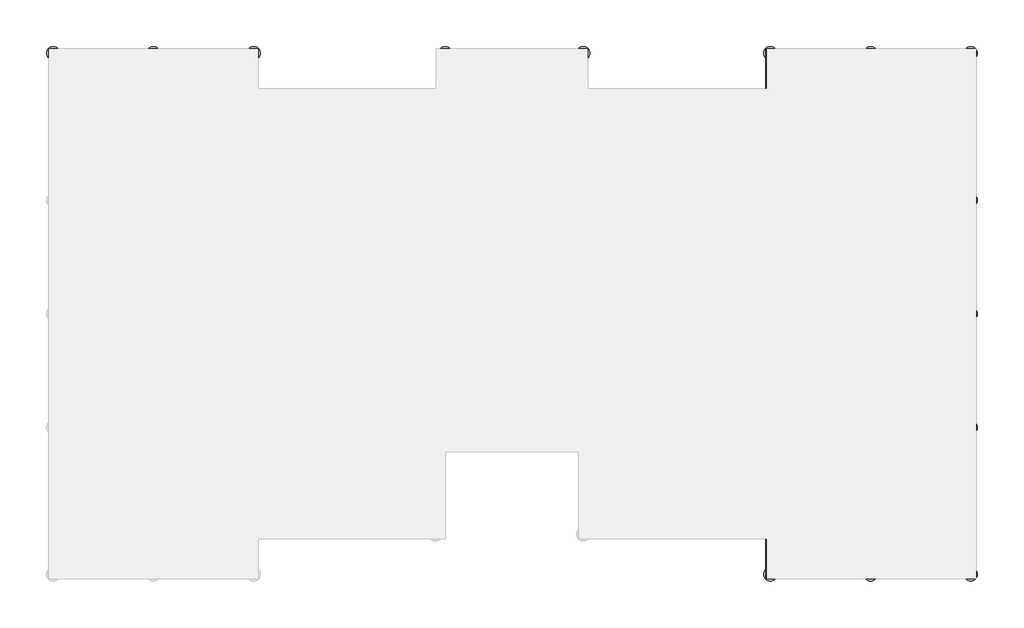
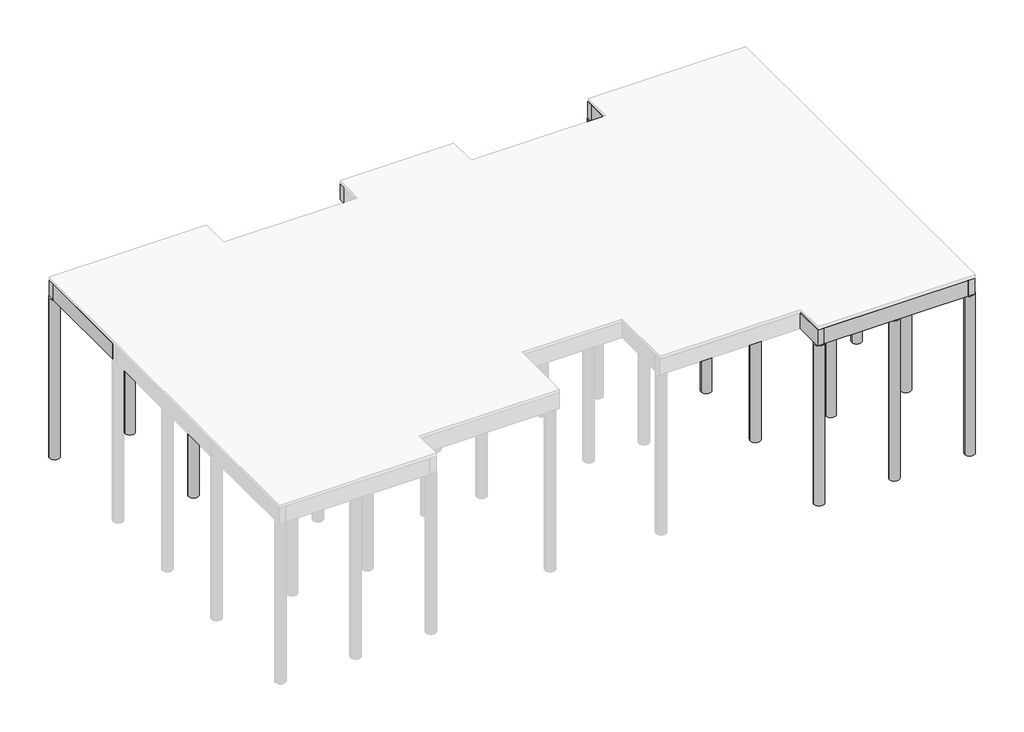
# One storey, part 2 of 2: 23 columns, 21 beams.
"""IFC4 building model written with IfcOpenShell, lengths in millimetres."""

from ifc_helpers import new_model, si_unit, point, frame, frame_2d, origin, place, context, project, spatial, polyline, circle_curve, trimmed, segment, composite_curve, outline, extrude, faceted_brep, element, save

model = new_model("IFC4")

# Units and contexts
model_context = context("Model", 3, world=origin())
ifc_project = project(units=[si_unit("LENGTHUNIT", "METRE", prefix="MILLI")], contexts=[model_context])

# Site, building, storey
site = spatial("IfcSite", under=ifc_project)
building = spatial("IfcBuilding", under=site)
storey = spatial("IfcBuildingStorey", under=building, Name="Baldrame", Elevation=-100.0)

# Beams
placement = place(None, origin())
element("IfcBeam", 1, ObjectType="Viga retangular : 20 x 30", at=placement, inside=storey, context=model_context, shape_type="SweptSolid", body=[
    extrude(outline(polyline([(4500.0002754, 10100.0088444), (4500.0002754, 9900.0088444), (3349.9979087, 9900.0088444), (3349.9979087, 10100.0088444), (4500.0002754, 10100.0088444)])), frame((0.0, 0.0, -400.0), z_axis=(0.0, 0.0, 1.0), x_axis=(1.0, 0.0, 0.0)), (0.0, 0.0, 1.0), 300.0),
])
element("IfcBeam", 2, ObjectType="Viga retangular : 20 x 30", at=placement, inside=storey, context=model_context, shape_type="SweptSolid", body=[
    extrude(outline(polyline([(16299.9991493, 2699.9968464), (16299.9991493, 2899.9968464), (17449.9950981, 2899.9968464), (17449.9950981, 2699.9968464), (16299.9991493, 2699.9968464)])), frame((0.0, 0.0, -400.0), z_axis=(0.0, 0.0, 1.0), x_axis=(1.0, 0.0, 0.0)), (0.0, 0.0, 1.0), 300.0),
])
element("IfcBeam", 3, ObjectType="Viga retangular : 20 x 30", at=placement, inside=storey, context=model_context, shape_type="SweptSolid", body=[
    extrude(outline(polyline([(16299.9991493, 9900.0088444), (16299.9991493, 10100.0088444), (17449.9960845, 10100.0088444), (17449.9960845, 9900.0088444), (16299.9991493, 9900.0088444)])), frame((0.0, 0.0, -400.0), z_axis=(0.0, 0.0, 1.0), x_axis=(1.0, 0.0, 0.0)), (0.0, 0.0, 1.0), 300.0),
])
element("IfcBeam", 4, ObjectType="Viga retangular : 20 x 50", at=placement, inside=storey, context=model_context, shape_type="Brep", body=[
    faceted_brep([(1.84e-05, 12350.0105618, -100.0), (1.84e-05, 12150.0105618, -100.0), (200.0000184, 12150.0105618, -100.0), (3149.9979087, 12150.0105618, -100.0), (3349.9979087, 12150.0105618, -100.0), (4500.0002754, 12150.0105618, -100.0), (4700.0002754, 12150.0105618, -100.0), (4700.0002754, 12350.0105618, -100.0), (1.84e-05, 12150.0105618, -600.0), (200.0000184, 12150.0105618, -600.0), (3149.9979087, 12150.0105618, -600.0), (3349.9979087, 12150.0105618, -600.0), (4500.0002754, 12150.0105618, -600.0), (4700.0002754, 12150.0105618, -600.0), (1.84e-05, 12350.0105618, -600.0), (4700.0002754, 12350.0105618, -600.0)], [[[0, 1, 2, 3, 4, 5, 6, 7]], [[1, 8, 9, 10, 11, 12, 13, 6, 5, 4, 3, 2]], [[8, 14, 15, 13, 12, 11, 10, 9]], [[14, 0, 7, 15]], [[1, 0, 14, 8]], [[7, 6, 13, 15]]]),
])
element("IfcBeam", 5, ObjectType="Viga retangular : 20 x 50", at=placement, inside=storey, context=model_context, shape_type="Brep", body=[
    faceted_brep([(12099.9983388, 12149.9988127, -100.0), (12099.9983388, 12349.9988127, -100.0), (8699.999281, 12349.9988127, -100.0), (8699.999281, 12149.9988127, -100.0), (8899.999281, 12149.9988127, -100.0), (11899.9983388, 12149.9988127, -100.0), (12099.9983388, 12149.9988127, -600.0), (8699.999281, 12149.9988127, -600.0), (8899.999281, 12149.9988127, -600.0), (11899.9983388, 12149.9988127, -600.0), (12099.9983388, 12349.9988127, -600.0), (8699.999281, 12349.9988127, -600.0)], [[[0, 1, 2, 3, 4, 5]], [[6, 0, 5, 4, 3, 7, 8, 9]], [[10, 6, 9, 8, 7, 11]], [[1, 10, 11, 2]], [[1, 0, 6, 10]], [[3, 2, 11, 7]]]),
])
element("IfcBeam", 6, ObjectType="Viga retangular : 20 x 50", at=placement, inside=storey, context=model_context, shape_type="Brep", body=[
    faceted_brep([(20799.994403, 12150.0074102, -100.0), (20799.994403, 12350.0074102, -100.0), (16099.9991493, 12350.0074102, -100.0), (16099.9991493, 12150.0074102, -100.0), (16299.9991493, 12150.0074102, -100.0), (17449.9960845, 12150.0074102, -100.0), (17649.9960845, 12150.0074102, -100.0), (20599.994403, 12150.0074102, -100.0), (20799.994403, 12150.0074102, -600.0), (16099.9991493, 12150.0074102, -600.0), (16299.9991493, 12150.0074102, -600.0), (17449.9960845, 12150.0074102, -600.0), (17649.9960845, 12150.0074102, -600.0), (20599.994403, 12150.0074102, -600.0), (20799.994403, 12350.0074102, -600.0), (16099.9991493, 12350.0074102, -600.0)], [[[0, 1, 2, 3, 4, 5, 6, 7]], [[8, 0, 7, 6, 5, 4, 3, 9, 10, 11, 12, 13]], [[14, 8, 13, 12, 11, 10, 9, 15]], [[1, 14, 15, 2]], [[1, 0, 8, 14]], [[3, 2, 15, 9]]]),
])
element("IfcBeam", 7, ObjectType="Viga retangular : 20 x 50", at=placement, inside=storey, context=model_context, shape_type="SweptSolid", body=[
    extrude(outline(polyline([(1.84e-05, 12150.0105618), (200.0000184, 12150.0105618), (200.0000184, 9050.0104593), (1.84e-05, 9050.0104593), (1.84e-05, 12150.0105618)])), frame((0.0, 0.0, -600.0), z_axis=(0.0, 0.0, 1.0), x_axis=(1.0, 0.0, 0.0)), (0.0, 0.0, 1.0), 500.0),
])
element("IfcBeam", 8, ObjectType="Viga retangular : 20 x 50", at=placement, inside=storey, context=model_context, shape_type="Brep", body=[
    faceted_brep([(3349.9979087, 12150.0105618, -100.0), (3149.9979087, 12150.0105618, -100.0), (3149.9979087, 9050.0104593, -100.0), (3349.9979087, 9050.0104593, -100.0), (3349.9979087, 9900.0088444, -100.0), (3349.9979087, 10100.0088444, -100.0), (3349.9979087, 12150.0105618, -600.0), (3349.9979087, 9050.0104593, -600.0), (3149.9979087, 12150.0105618, -600.0), (3149.9979087, 9050.0104593, -600.0)], [[[0, 1, 2, 3, 4, 5]], [[6, 0, 5, 4, 3, 7]], [[8, 6, 7, 9]], [[1, 8, 9, 2]], [[1, 0, 6, 8]], [[3, 2, 9, 7]]]),
])
element("IfcBeam", 9, ObjectType="Viga retangular : 20 x 50", at=placement, inside=storey, context=model_context, shape_type="Brep", body=[
    faceted_brep([(11899.9983388, 10900.0024617, -100.0), (11899.9983388, 10900.0024617, -600.0), (12099.9983388, 10900.0024617, -600.0), (12099.9983388, 10900.0024617, -100.0), (12099.9983388, 11200.0071923, -100.0), (12099.9983388, 11450.007048, -100.0), (12099.9983388, 12149.9988127, -100.0), (11899.9983388, 12149.9988127, -100.0), (12099.9983388, 11200.0071923, -600.0), (12099.9983388, 11450.0071923, -600.0), (12099.9983388, 12149.9988127, -600.0), (11899.9983388, 12149.9988127, -600.0)], [[[0, 1, 2, 3]], [[0, 3, 4, 5, 6, 7]], [[3, 2, 8, 9, 10, 6, 5, 4]], [[2, 1, 11, 10, 9, 8]], [[1, 0, 7, 11]], [[7, 6, 10, 11]]]),
])
element("IfcBeam", 10, ObjectType="Viga retangular : 20 x 50", at=placement, inside=storey, context=model_context, shape_type="Brep", body=[
    faceted_brep([(16099.9991493, 449.9907876, -100.0), (16299.9991493, 449.9907876, -100.0), (16299.9991493, 649.9907876, -100.0), (16299.9991493, 2699.9968464, -100.0), (16299.9991493, 2899.9968464, -100.0), (16299.9991493, 3749.9921964, -100.0), (16299.9991493, 3949.9921964, -100.0), (16299.9991493, 6300.0028454, -100.0), (16299.9991493, 6500.0028454, -100.0), (16299.9991493, 8850.0060014, -100.0), (16299.9991493, 9050.0060014, -100.0), (16299.9991493, 9900.0088444, -100.0), (16299.9991493, 10100.0088444, -100.0), (16299.9991493, 12150.0074102, -100.0), (16099.9991493, 12150.0074102, -100.0), (16099.9991493, 11450.0071923, -100.0), (16099.9991493, 11200.0071923, -100.0), (16099.9991493, 6500.0028454, -100.0), (16099.9991493, 6300.0028454, -100.0), (16099.9991493, 1599.9990079, -100.0), (16099.9991493, 1349.9990079, -100.0), (16299.9991493, 449.9907876, -600.0), (16299.9991493, 649.9907876, -600.0), (16299.9991493, 3749.9921964, -600.0), (16299.9991493, 3949.9921964, -600.0), (16299.9991493, 6300.0028454, -600.0), (16299.9991493, 6500.0028454, -600.0), (16299.9991493, 8850.0060014, -600.0), (16299.9991493, 9050.0060014, -600.0), (16299.9991493, 12150.0074102, -600.0), (16099.9991493, 449.9907876, -600.0), (16099.9991493, 1349.9990079, -600.0), (16099.9991493, 1599.9990079, -600.0), (16099.9991493, 6300.0028454, -600.0), (16099.9991493, 6500.0028454, -600.0), (16099.9991493, 11200.0071923, -600.0), (16099.9991493, 11450.0071923, -600.0), (16099.9991493, 12150.0074102, -600.0)], [[[0, 1, 2, 3, 4, 5, 6, 7, 8, 9, 10, 11, 12, 13, 14, 15, 16, 17, 18, 19, 20]], [[1, 21, 22, 23, 24, 25, 26, 27, 28, 29, 13, 12, 11, 10, 9, 8, 7, 6, 5, 4, 3, 2]], [[21, 30, 31, 32, 33, 34, 35, 36, 37, 29, 28, 27, 26, 25, 24, 23, 22]], [[30, 0, 20, 19, 18, 17, 16, 15, 14, 37, 36, 35, 34, 33, 32, 31]], [[14, 13, 29, 37]], [[1, 0, 30, 21]]]),
])
element("IfcBeam", 11, ObjectType="Viga retangular : 20 x 50", at=placement, inside=storey, context=model_context, shape_type="Brep", body=[
    faceted_brep([(20599.994403, 449.9907876, -100.0), (20799.994403, 449.9907876, -100.0), (20799.994403, 3949.9921964, -100.0), (20599.994403, 3949.9921964, -100.0), (20599.994403, 3749.9921964, -100.0), (20599.994403, 649.9907876, -100.0), (20799.994403, 449.9907876, -600.0), (20799.994403, 3949.9921964, -600.0), (20599.994403, 449.9907876, -600.0), (20599.994403, 649.9907876, -600.0), (20599.994403, 3749.9921964, -600.0), (20599.994403, 3949.9921964, -600.0)], [[[0, 1, 2, 3, 4, 5]], [[1, 6, 7, 2]], [[6, 8, 9, 10, 11, 7]], [[8, 0, 5, 4, 3, 11, 10, 9]], [[1, 0, 8, 6]], [[3, 2, 7, 11]]]),
])
element("IfcBeam", 12, ObjectType="Viga retangular : 20 x 50", at=placement, inside=storey, context=model_context, shape_type="Brep", body=[
    faceted_brep([(20599.994403, 3949.9921964, -100.0), (20799.994403, 3949.9921964, -100.0), (20799.994403, 8850.0060014, -100.0), (20599.994403, 8850.0060014, -100.0), (20599.994403, 6500.0028454, -100.0), (20599.994403, 6300.0028454, -100.0), (20799.994403, 3949.9921964, -600.0), (20799.994403, 8850.0060014, -600.0), (20599.994403, 3949.9921964, -600.0), (20599.994403, 6300.0028454, -600.0), (20599.994403, 6500.0028454, -600.0), (20599.994403, 8850.0060014, -600.0)], [[[0, 1, 2, 3, 4, 5]], [[1, 6, 7, 2]], [[6, 8, 9, 10, 11, 7]], [[8, 0, 5, 4, 3, 11, 10, 9]], [[1, 0, 8, 6]], [[3, 2, 7, 11]]]),
])
element("IfcBeam", 13, ObjectType="Viga retangular : 20 x 50", at=placement, inside=storey, context=model_context, shape_type="Brep", body=[
    faceted_brep([(20799.994403, 8850.0060014, -100.0), (20799.994403, 9050.0060014, -100.0), (20599.994403, 9050.0060014, -100.0), (17649.9960845, 9050.0060014, -100.0), (17449.9960845, 9050.0060014, -100.0), (16299.9991493, 9050.0060014, -100.0), (16299.9991493, 8850.0060014, -100.0), (20599.994403, 8850.0060014, -100.0), (20799.994403, 8850.0060014, -600.0), (16299.9991493, 8850.0060014, -600.0), (20599.994403, 8850.0060014, -600.0), (20799.994403, 9050.0060014, -600.0), (16299.9991493, 9050.0060014, -600.0), (17449.9960845, 9050.0060014, -600.0), (17649.9960845, 9050.0060014, -600.0), (20599.994403, 9050.0060014, -600.0)], [[[0, 1, 2, 3, 4, 5, 6, 7]], [[8, 0, 7, 6, 9, 10]], [[11, 8, 10, 9, 12, 13, 14, 15]], [[1, 11, 15, 14, 13, 12, 5, 4, 3, 2]], [[6, 5, 12, 9]], [[1, 0, 8, 11]]]),
])
element("IfcBeam", 14, ObjectType="Viga retangular : 20 x 50", at=placement, inside=storey, context=model_context, shape_type="Brep", body=[
    faceted_brep([(16299.9991493, 3949.9921964, -100.0), (16299.9991493, 3749.9921964, -100.0), (17449.9950981, 3749.9921964, -100.0), (17649.9950981, 3749.9921964, -100.0), (20599.994403, 3749.9921964, -100.0), (20599.994403, 3949.9921964, -100.0), (16299.9991493, 3749.9921964, -600.0), (17449.9950981, 3749.9921964, -600.0), (17649.9950981, 3749.9921964, -600.0), (20599.994403, 3749.9921964, -600.0), (16299.9991493, 3949.9921964, -600.0), (20599.994403, 3949.9921964, -600.0)], [[[0, 1, 2, 3, 4, 5]], [[1, 6, 7, 8, 9, 4, 3, 2]], [[6, 10, 11, 9, 8, 7]], [[10, 0, 5, 11]], [[1, 0, 10, 6]], [[5, 4, 9, 11]]]),
])
element("IfcBeam", 15, ObjectType="Viga retangular : 20 x 50", at=placement, inside=storey, context=model_context, shape_type="Brep", body=[
    faceted_brep([(17649.9950981, 3749.9921964, -100.0), (17449.9950981, 3749.9921964, -100.0), (17449.9950981, 2899.9968464, -100.0), (17449.9950981, 2699.9968464, -100.0), (17449.9950981, 649.9907876, -100.0), (17649.9950981, 649.9907876, -100.0), (17649.9950981, 3749.9921964, -600.0), (17649.9950981, 649.9907876, -600.0), (17449.9950981, 3749.9921964, -600.0), (17449.9950981, 649.9907876, -600.0)], [[[0, 1, 2, 3, 4, 5]], [[6, 0, 5, 7]], [[8, 6, 7, 9]], [[1, 8, 9, 4, 3, 2]], [[1, 0, 6, 8]], [[5, 4, 9, 7]]]),
])
element("IfcBeam", 16, ObjectType="Viga retangular : 20 x 50", at=placement, inside=storey, context=model_context, shape_type="Brep", body=[
    faceted_brep([(16299.9991493, 649.9907876, -100.0), (16299.9991493, 449.9907876, -100.0), (20599.994403, 449.9907876, -100.0), (20599.994403, 649.9907876, -100.0), (17649.9950981, 649.9907876, -100.0), (17449.9950981, 649.9907876, -100.0), (16299.9991493, 449.9907876, -600.0), (20599.994403, 449.9907876, -600.0), (16299.9991493, 649.9907876, -600.0), (17449.9950981, 649.9907876, -600.0), (17649.9950981, 649.9907876, -600.0), (20599.994403, 649.9907876, -600.0)], [[[0, 1, 2, 3, 4, 5]], [[1, 6, 7, 2]], [[6, 8, 9, 10, 11, 7]], [[8, 0, 5, 4, 3, 11, 10, 9]], [[1, 0, 8, 6]], [[3, 2, 7, 11]]]),
])
element("IfcBeam", 17, ObjectType="Viga retangular : 20 x 50", at=placement, inside=storey, context=model_context, shape_type="SweptSolid", body=[
    extrude(outline(polyline([(16299.9991493, 6300.0028454), (16299.9991493, 6500.0028454), (20599.994403, 6500.0028454), (20599.994403, 6300.0028454), (16299.9991493, 6300.0028454)])), frame((0.0, 0.0, -600.0), z_axis=(0.0, 0.0, 1.0), x_axis=(1.0, 0.0, 0.0)), (0.0, 0.0, 1.0), 500.0),
    extrude(outline(polyline([(16099.9991493, 6500.0028454), (16099.9991493, 6300.0028454), (13749.9952153, 6300.0028454), (13749.9952153, 6500.0028454), (16099.9991493, 6500.0028454)])), frame((0.0, 0.0, -600.0), z_axis=(0.0, 0.0, 1.0), x_axis=(1.0, 0.0, 0.0)), (0.0, 0.0, 1.0), 500.0),
])
element("IfcBeam", 18, ObjectType="Viga retangular : 20 x 50", at=placement, inside=storey, context=model_context, shape_type="SweptSolid", body=[
    extrude(outline(polyline([(20599.994403, 12150.0074102), (20799.994403, 12150.0074102), (20799.994403, 9050.0060014), (20599.994403, 9050.0060014), (20599.994403, 12150.0074102)])), frame((0.0, 0.0, -600.0), z_axis=(0.0, 0.0, 1.0), x_axis=(1.0, 0.0, 0.0)), (0.0, 0.0, 1.0), 500.0),
])
element("IfcBeam", 19, ObjectType="Viga retangular : 20 x 50", at=placement, inside=storey, context=model_context, shape_type="Brep", body=[
    faceted_brep([(17649.9960845, 12150.0074102, -100.0), (17449.9960845, 12150.0074102, -100.0), (17449.9960845, 10100.0088444, -100.0), (17449.9960845, 9900.0088444, -100.0), (17449.9960845, 9050.0060014, -100.0), (17649.9960845, 9050.0060014, -100.0), (17649.9960845, 12150.0074102, -600.0), (17649.9960845, 9050.0060014, -600.0), (17449.9960845, 12150.0074102, -600.0), (17449.9960845, 9050.0060014, -600.0)], [[[0, 1, 2, 3, 4, 5]], [[6, 0, 5, 7]], [[8, 6, 7, 9]], [[1, 8, 9, 4, 3, 2]], [[1, 0, 6, 8]], [[5, 4, 9, 7]]]),
])
element("IfcBeam", 20, ObjectType="Viga retangular : 25 x 50", at=placement, inside=storey, context=model_context, shape_type="Brep", body=[
    faceted_brep([(4700.0002754, 11450.007048, -100.0), (4700.0002754, 11200.007048, -100.0), (7049.9960549, 11200.007048, -100.0), (7249.9960549, 11200.007048, -100.0), (8699.999281, 11200.007048, -100.0), (8699.999281, 11450.007048, -100.0), (4700.0002754, 11200.007048, -600.0), (7049.9960549, 11200.007048, -600.0), (7249.9960549, 11200.007048, -600.0), (8699.999281, 11200.007048, -600.0), (4700.0002754, 11450.007048, -600.0), (8699.999281, 11450.007048, -600.0)], [[[0, 1, 2, 3, 4, 5]], [[1, 6, 7, 8, 9, 4, 3, 2]], [[6, 10, 11, 9, 8, 7]], [[10, 0, 5, 11]], [[1, 0, 10, 6]], [[5, 4, 9, 11]]]),
])
element("IfcBeam", 21, ObjectType="Viga retangular : 25 x 50", at=placement, inside=storey, context=model_context, shape_type="Brep", body=[
    faceted_brep([(16099.9991493, 11200.0071923, -100.0), (16099.9991493, 11450.0071923, -100.0), (12099.9983388, 11450.0071923, -100.0), (12099.9983388, 11200.0071923, -100.0), (13549.9952153, 11200.0071923, -100.0), (13749.9952153, 11200.0071923, -100.0), (16099.9991493, 11200.0071923, -600.0), (12099.9983388, 11200.0071923, -600.0), (13549.9952153, 11200.0071923, -600.0), (13749.9952153, 11200.0071923, -600.0), (16099.9991493, 11450.0071923, -600.0), (12099.9983388, 11450.0071923, -600.0)], [[[0, 1, 2, 3, 4, 5]], [[6, 0, 5, 4, 3, 7, 8, 9]], [[10, 6, 9, 8, 7, 11]], [[1, 10, 11, 2]], [[1, 0, 6, 10]], [[3, 2, 11, 7]]]),
])

# Columns
element("IfcColumn", 22, ObjectType="Estaca de Concreto : Estaca de Concreto  Ø30", at=placement, inside=storey, context=model_context, shape_type="SweptSolid", body=[
    extrude(outline(composite_curve([segment(trimmed(circle_curve(frame_2d((100.0000184, 12250.0105618)), 150.0), [point((-49.9999816, 12250.0105618))], [point((250.0000184, 12250.0105618))], False, "CARTESIAN"), True, "CONTINUOUS"), segment(trimmed(circle_curve(frame_2d((100.0000184, 12250.0105618)), 150.0), [point((250.0000184, 12250.0105618))], [point((-49.9999816, 12250.0105618))], False, "CARTESIAN"), True, "CONTINUOUS")], self_intersect=False)), frame((0.0, 0.0, -5650.0), z_axis=(0.0, 0.0, 1.0), x_axis=(1.0, 0.0, 0.0)), (0.0, 0.0, 1.0), 5050.0),
])
element("IfcColumn", 23, ObjectType="Estaca de Concreto : Estaca de Concreto  Ø30", at=placement, inside=storey, context=model_context, shape_type="SweptSolid", body=[
    extrude(outline(composite_curve([segment(trimmed(circle_curve(frame_2d((4600.0002754, 12250.0074102)), 150.0), [point((4450.0002754, 12250.0074102))], [point((4750.0002754, 12250.0074102))], False, "CARTESIAN"), True, "CONTINUOUS"), segment(trimmed(circle_curve(frame_2d((4600.0002754, 12250.0074102)), 150.0), [point((4750.0002754, 12250.0074102))], [point((4450.0002754, 12250.0074102))], False, "CARTESIAN"), True, "CONTINUOUS")], self_intersect=False)), frame((0.0, 0.0, -5650.0), z_axis=(0.0, 0.0, 1.0), x_axis=(1.0, 0.0, 0.0)), (0.0, 0.0, 1.0), 5050.0),
])
element("IfcColumn", 24, ObjectType="Estaca de Concreto : Estaca de Concreto  Ø30", at=placement, inside=storey, context=model_context, shape_type="SweptSolid", body=[
    extrude(outline(composite_curve([segment(trimmed(circle_curve(frame_2d((4600.0002754, 8950.0060014)), 150.0), [point((4450.0002754, 8950.0060014))], [point((4750.0002754, 8950.0060014))], False, "CARTESIAN"), True, "CONTINUOUS"), segment(trimmed(circle_curve(frame_2d((4600.0002754, 8950.0060014)), 150.0), [point((4750.0002754, 8950.0060014))], [point((4450.0002754, 8950.0060014))], False, "CARTESIAN"), True, "CONTINUOUS")], self_intersect=False)), frame((0.0, 0.0, -5650.0), z_axis=(0.0, 0.0, 1.0), x_axis=(1.0, 0.0, 0.0)), (0.0, 0.0, 1.0), 5050.0),
])
element("IfcColumn", 25, ObjectType="Estaca de Concreto : Estaca de Concreto  Ø30", at=placement, inside=storey, context=model_context, shape_type="SweptSolid", body=[
    extrude(outline(composite_curve([segment(trimmed(circle_curve(frame_2d((8899.9993456, 12249.9988127)), 150.0), [point((8749.9993456, 12249.9988127))], [point((9049.9993456, 12249.9988127))], False, "CARTESIAN"), True, "CONTINUOUS"), segment(trimmed(circle_curve(frame_2d((8899.9993456, 12249.9988127)), 150.0), [point((9049.9993456, 12249.9988127))], [point((8749.9993456, 12249.9988127))], False, "CARTESIAN"), True, "CONTINUOUS")], self_intersect=False)), frame((0.0, 0.0, -5650.0), z_axis=(0.0, 0.0, 1.0), x_axis=(1.0, 0.0, 0.0)), (0.0, 0.0, 1.0), 5050.0),
])
element("IfcColumn", 26, ObjectType="Estaca de Concreto : Estaca de Concreto  Ø30", at=placement, inside=storey, context=model_context, shape_type="SweptSolid", body=[
    extrude(outline(composite_curve([segment(trimmed(circle_curve(frame_2d((8799.9990513, 11350.007048)), 150.0), [point((8649.9990513, 11350.007048))], [point((8949.9990513, 11350.007048))], False, "CARTESIAN"), True, "CONTINUOUS"), segment(trimmed(circle_curve(frame_2d((8799.9990513, 11350.007048)), 150.0), [point((8949.9990513, 11350.007048))], [point((8649.9990513, 11350.007048))], False, "CARTESIAN"), True, "CONTINUOUS")], self_intersect=False)), frame((0.0, 0.0, -5650.0), z_axis=(0.0, 0.0, 1.0), x_axis=(1.0, 0.0, 0.0)), (0.0, 0.0, 1.0), 5050.0),
])
element("IfcColumn", 27, ObjectType="Estaca de Concreto : Estaca de Concreto  Ø30", at=placement, inside=storey, context=model_context, shape_type="SweptSolid", body=[
    extrude(outline(composite_curve([segment(trimmed(circle_curve(frame_2d((2350.0001469, 12250.0105618)), 150.0), [point((2200.0001469, 12250.0105618))], [point((2500.0001469, 12250.0105618))], False, "CARTESIAN"), True, "CONTINUOUS"), segment(trimmed(circle_curve(frame_2d((2350.0001469, 12250.0105618)), 150.0), [point((2500.0001469, 12250.0105618))], [point((2200.0001469, 12250.0105618))], False, "CARTESIAN"), True, "CONTINUOUS")], self_intersect=False)), frame((0.0, 0.0, -5650.0), z_axis=(0.0, 0.0, 1.0), x_axis=(1.0, 0.0, 0.0)), (0.0, 0.0, 1.0), 5050.0),
])
element("IfcColumn", 28, ObjectType="Estaca de Concreto : Estaca de Concreto  Ø30", at=placement, inside=storey, context=model_context, shape_type="SweptSolid", body=[
    extrude(outline(composite_curve([segment(trimmed(circle_curve(frame_2d((2350.0001469, 8950.0104593)), 150.0), [point((2200.0001469, 8950.0104593))], [point((2500.0001469, 8950.0104593))], False, "CARTESIAN"), True, "CONTINUOUS"), segment(trimmed(circle_curve(frame_2d((2350.0001469, 8950.0104593)), 150.0), [point((2500.0001469, 8950.0104593))], [point((2200.0001469, 8950.0104593))], False, "CARTESIAN"), True, "CONTINUOUS")], self_intersect=False)), frame((0.0, 0.0, -5650.0), z_axis=(0.0, 0.0, 1.0), x_axis=(1.0, 0.0, 0.0)), (0.0, 0.0, 1.0), 5050.0),
])
element("IfcColumn", 29, ObjectType="Estaca de Concreto : Estaca de Concreto  Ø30", at=placement, inside=storey, context=model_context, shape_type="SweptSolid", body=[
    extrude(outline(composite_curve([segment(trimmed(circle_curve(frame_2d((20699.994403, 12250.0105618)), 150.0), [point((20549.994403, 12250.0105618))], [point((20849.994403, 12250.0105618))], False, "CARTESIAN"), True, "CONTINUOUS"), segment(trimmed(circle_curve(frame_2d((20699.994403, 12250.0105618)), 150.0), [point((20849.994403, 12250.0105618))], [point((20549.994403, 12250.0105618))], False, "CARTESIAN"), True, "CONTINUOUS")], self_intersect=False)), frame((0.0, 0.0, -5650.0), z_axis=(0.0, 0.0, 1.0), x_axis=(1.0, 0.0, 0.0)), (0.0, 0.0, 1.0), 5050.0),
])
element("IfcColumn", 30, ObjectType="Estaca de Concreto : Estaca de Concreto  Ø30", at=placement, inside=storey, context=model_context, shape_type="SweptSolid", body=[
    extrude(outline(composite_curve([segment(trimmed(circle_curve(frame_2d((20699.994403, 8950.0104593)), 150.0), [point((20549.994403, 8950.0104593))], [point((20849.994403, 8950.0104593))], False, "CARTESIAN"), True, "CONTINUOUS"), segment(trimmed(circle_curve(frame_2d((20699.994403, 8950.0104593)), 150.0), [point((20849.994403, 8950.0104593))], [point((20549.994403, 8950.0104593))], False, "CARTESIAN"), True, "CONTINUOUS")], self_intersect=False)), frame((0.0, 0.0, -5650.0), z_axis=(0.0, 0.0, 1.0), x_axis=(1.0, 0.0, 0.0)), (0.0, 0.0, 1.0), 5050.0),
])
element("IfcColumn", 31, ObjectType="Estaca de Concreto : Estaca de Concreto  Ø30", at=placement, inside=storey, context=model_context, shape_type="SweptSolid", body=[
    extrude(outline(composite_curve([segment(trimmed(circle_curve(frame_2d((20699.994403, 3849.995348)), 150.0), [point((20549.994403, 3849.995348))], [point((20849.994403, 3849.995348))], False, "CARTESIAN"), True, "CONTINUOUS"), segment(trimmed(circle_curve(frame_2d((20699.994403, 3849.995348)), 150.0), [point((20849.994403, 3849.995348))], [point((20549.994403, 3849.995348))], False, "CARTESIAN"), True, "CONTINUOUS")], self_intersect=False)), frame((0.0, 0.0, -5650.0), z_axis=(0.0, 0.0, 1.0), x_axis=(1.0, 0.0, 0.0)), (0.0, 0.0, 1.0), 5050.0),
])
element("IfcColumn", 32, ObjectType="Estaca de Concreto : Estaca de Concreto  Ø30", at=placement, inside=storey, context=model_context, shape_type="SweptSolid", body=[
    extrude(outline(composite_curve([segment(trimmed(circle_curve(frame_2d((20699.994403, 549.9952456)), 150.0), [point((20549.994403, 549.9952456))], [point((20849.994403, 549.9952456))], False, "CARTESIAN"), True, "CONTINUOUS"), segment(trimmed(circle_curve(frame_2d((20699.994403, 549.9952456)), 150.0), [point((20849.994403, 549.9952456))], [point((20549.994403, 549.9952456))], False, "CARTESIAN"), True, "CONTINUOUS")], self_intersect=False)), frame((0.0, 0.0, -5650.0), z_axis=(0.0, 0.0, 1.0), x_axis=(1.0, 0.0, 0.0)), (0.0, 0.0, 1.0), 5050.0),
])
element("IfcColumn", 33, ObjectType="Estaca de Concreto : Estaca de Concreto  Ø30", at=placement, inside=storey, context=model_context, shape_type="SweptSolid", body=[
    extrude(outline(composite_curve([segment(trimmed(circle_curve(frame_2d((20699.9947653, 6400.0104083)), 150.0), [point((20549.9947653, 6400.0104083))], [point((20849.9947653, 6400.0104083))], False, "CARTESIAN"), True, "CONTINUOUS"), segment(trimmed(circle_curve(frame_2d((20699.9947653, 6400.0104083)), 150.0), [point((20849.9947653, 6400.0104083))], [point((20549.9947653, 6400.0104083))], False, "CARTESIAN"), True, "CONTINUOUS")], self_intersect=False)), frame((0.0, 0.0, -5650.0), z_axis=(0.0, 0.0, 1.0), x_axis=(1.0, 0.0, 0.0)), (0.0, 0.0, 1.0), 5050.0),
])
element("IfcColumn", 34, ObjectType="Estaca de Concreto : Estaca de Concreto  Ø30", at=placement, inside=storey, context=model_context, shape_type="SweptSolid", body=[
    extrude(outline(composite_curve([segment(trimmed(circle_curve(frame_2d((16199.9991493, 12250.0074102)), 150.0), [point((16049.9991493, 12250.0074102))], [point((16349.9991493, 12250.0074102))], False, "CARTESIAN"), True, "CONTINUOUS"), segment(trimmed(circle_curve(frame_2d((16199.9991493, 12250.0074102)), 150.0), [point((16349.9991493, 12250.0074102))], [point((16049.9991493, 12250.0074102))], False, "CARTESIAN"), True, "CONTINUOUS")], self_intersect=False)), frame((0.0, 0.0, -5650.0), z_axis=(0.0, 0.0, 1.0), x_axis=(1.0, 0.0, 0.0)), (0.0, 0.0, 1.0), 5050.0),
])
element("IfcColumn", 35, ObjectType="Estaca de Concreto : Estaca de Concreto  Ø30", at=placement, inside=storey, context=model_context, shape_type="SweptSolid", body=[
    extrude(outline(composite_curve([segment(trimmed(circle_curve(frame_2d((16199.9991493, 8950.0060014)), 150.0), [point((16049.9991493, 8950.0060014))], [point((16349.9991493, 8950.0060014))], False, "CARTESIAN"), True, "CONTINUOUS"), segment(trimmed(circle_curve(frame_2d((16199.9991493, 8950.0060014)), 150.0), [point((16349.9991493, 8950.0060014))], [point((16049.9991493, 8950.0060014))], False, "CARTESIAN"), True, "CONTINUOUS")], self_intersect=False)), frame((0.0, 0.0, -5650.0), z_axis=(0.0, 0.0, 1.0), x_axis=(1.0, 0.0, 0.0)), (0.0, 0.0, 1.0), 5050.0),
])
element("IfcColumn", 36, ObjectType="Estaca de Concreto : Estaca de Concreto  Ø30", at=placement, inside=storey, context=model_context, shape_type="SweptSolid", body=[
    extrude(outline(composite_curve([segment(trimmed(circle_curve(frame_2d((16199.9973466, 6400.0059093)), 150.0), [point((16049.9973466, 6400.0059093))], [point((16349.9973466, 6400.0059093))], False, "CARTESIAN"), True, "CONTINUOUS"), segment(trimmed(circle_curve(frame_2d((16199.9973466, 6400.0059093)), 150.0), [point((16349.9973466, 6400.0059093))], [point((16049.9973466, 6400.0059093))], False, "CARTESIAN"), True, "CONTINUOUS")], self_intersect=False)), frame((0.0, 0.0, -5650.0), z_axis=(0.0, 0.0, 1.0), x_axis=(1.0, 0.0, 0.0)), (0.0, 0.0, 1.0), 5050.0),
])
element("IfcColumn", 37, ObjectType="Estaca de Concreto : Estaca de Concreto  Ø30", at=placement, inside=storey, context=model_context, shape_type="SweptSolid", body=[
    extrude(outline(composite_curve([segment(trimmed(circle_curve(frame_2d((16199.9991493, 549.9907876)), 150.0), [point((16049.9991493, 549.9907876))], [point((16349.9991493, 549.9907876))], False, "CARTESIAN"), True, "CONTINUOUS"), segment(trimmed(circle_curve(frame_2d((16199.9991493, 549.9907876)), 150.0), [point((16349.9991493, 549.9907876))], [point((16049.9991493, 549.9907876))], False, "CARTESIAN"), True, "CONTINUOUS")], self_intersect=False)), frame((0.0, 0.0, -5650.0), z_axis=(0.0, 0.0, 1.0), x_axis=(1.0, 0.0, 0.0)), (0.0, 0.0, 1.0), 5050.0),
])
element("IfcColumn", 38, ObjectType="Estaca de Concreto : Estaca de Concreto  Ø30", at=placement, inside=storey, context=model_context, shape_type="SweptSolid", body=[
    extrude(outline(composite_curve([segment(trimmed(circle_curve(frame_2d((11999.9981091, 11350.0071923)), 150.0), [point((11849.9981091, 11350.0071923))], [point((12149.9981091, 11350.0071923))], False, "CARTESIAN"), True, "CONTINUOUS"), segment(trimmed(circle_curve(frame_2d((11999.9981091, 11350.0071923)), 150.0), [point((12149.9981091, 11350.0071923))], [point((11849.9981091, 11350.0071923))], False, "CARTESIAN"), True, "CONTINUOUS")], self_intersect=False)), frame((0.0, 0.0, -5650.0), z_axis=(0.0, 0.0, 1.0), x_axis=(1.0, 0.0, 0.0)), (0.0, 0.0, 1.0), 5050.0),
])
element("IfcColumn", 39, ObjectType="Estaca de Concreto : Estaca de Concreto  Ø30", at=placement, inside=storey, context=model_context, shape_type="SweptSolid", body=[
    extrude(outline(composite_curve([segment(trimmed(circle_curve(frame_2d((11999.9983388, 12249.9988127)), 150.0), [point((11849.9983388, 12249.9988127))], [point((12149.9983388, 12249.9988127))], False, "CARTESIAN"), True, "CONTINUOUS"), segment(trimmed(circle_curve(frame_2d((11999.9983388, 12249.9988127)), 150.0), [point((12149.9983388, 12249.9988127))], [point((11849.9983388, 12249.9988127))], False, "CARTESIAN"), True, "CONTINUOUS")], self_intersect=False)), frame((0.0, 0.0, -5650.0), z_axis=(0.0, 0.0, 1.0), x_axis=(1.0, 0.0, 0.0)), (0.0, 0.0, 1.0), 5050.0),
])
element("IfcColumn", 40, ObjectType="Estaca de Concreto : Estaca de Concreto  Ø30", at=placement, inside=storey, context=model_context, shape_type="SweptSolid", body=[
    extrude(outline(composite_curve([segment(trimmed(circle_curve(frame_2d((16199.9991493, 3849.9921964)), 150.0), [point((16049.9991493, 3849.9921964))], [point((16349.9991493, 3849.9921964))], False, "CARTESIAN"), True, "CONTINUOUS"), segment(trimmed(circle_curve(frame_2d((16199.9991493, 3849.9921964)), 150.0), [point((16349.9991493, 3849.9921964))], [point((16049.9991493, 3849.9921964))], False, "CARTESIAN"), True, "CONTINUOUS")], self_intersect=False)), frame((0.0, 0.0, -5650.0), z_axis=(0.0, 0.0, 1.0), x_axis=(1.0, 0.0, 0.0)), (0.0, 0.0, 1.0), 5050.0),
])
element("IfcColumn", 41, ObjectType="Estaca de Concreto : Estaca de Concreto  Ø30", at=placement, inside=storey, context=model_context, shape_type="SweptSolid", body=[
    extrude(outline(composite_curve([segment(trimmed(circle_curve(frame_2d((18449.9967761, 549.9952456)), 150.0), [point((18299.9967761, 549.9952456))], [point((18599.9967761, 549.9952456))], False, "CARTESIAN"), True, "CONTINUOUS"), segment(trimmed(circle_curve(frame_2d((18449.9967761, 549.9952456)), 150.0), [point((18599.9967761, 549.9952456))], [point((18299.9967761, 549.9952456))], False, "CARTESIAN"), True, "CONTINUOUS")], self_intersect=False)), frame((0.0, 0.0, -5650.0), z_axis=(0.0, 0.0, 1.0), x_axis=(1.0, 0.0, 0.0)), (0.0, 0.0, 1.0), 5050.0),
])
element("IfcColumn", 42, ObjectType="Estaca de Concreto : Estaca de Concreto  Ø30", at=placement, inside=storey, context=model_context, shape_type="SweptSolid", body=[
    extrude(outline(composite_curve([segment(trimmed(circle_curve(frame_2d((18449.9967761, 3849.995348)), 150.0), [point((18299.9967761, 3849.995348))], [point((18599.9967761, 3849.995348))], False, "CARTESIAN"), True, "CONTINUOUS"), segment(trimmed(circle_curve(frame_2d((18449.9967761, 3849.995348)), 150.0), [point((18599.9967761, 3849.995348))], [point((18299.9967761, 3849.995348))], False, "CARTESIAN"), True, "CONTINUOUS")], self_intersect=False)), frame((0.0, 0.0, -5650.0), z_axis=(0.0, 0.0, 1.0), x_axis=(1.0, 0.0, 0.0)), (0.0, 0.0, 1.0), 5050.0),
])
element("IfcColumn", 43, ObjectType="Estaca de Concreto : Estaca de Concreto  Ø30", at=placement, inside=storey, context=model_context, shape_type="SweptSolid", body=[
    extrude(outline(composite_curve([segment(trimmed(circle_curve(frame_2d((18449.9967761, 8950.0104593)), 150.0), [point((18299.9967761, 8950.0104593))], [point((18599.9967761, 8950.0104593))], False, "CARTESIAN"), True, "CONTINUOUS"), segment(trimmed(circle_curve(frame_2d((18449.9967761, 8950.0104593)), 150.0), [point((18599.9967761, 8950.0104593))], [point((18299.9967761, 8950.0104593))], False, "CARTESIAN"), True, "CONTINUOUS")], self_intersect=False)), frame((0.0, 0.0, -5650.0), z_axis=(0.0, 0.0, 1.0), x_axis=(1.0, 0.0, 0.0)), (0.0, 0.0, 1.0), 5050.0),
])
element("IfcColumn", 44, ObjectType="Estaca de Concreto : Estaca de Concreto  Ø30", at=placement, inside=storey, context=model_context, shape_type="SweptSolid", body=[
    extrude(outline(composite_curve([segment(trimmed(circle_curve(frame_2d((18449.9967761, 12250.0105618)), 150.0), [point((18299.9967761, 12250.0105618))], [point((18599.9967761, 12250.0105618))], False, "CARTESIAN"), True, "CONTINUOUS"), segment(trimmed(circle_curve(frame_2d((18449.9967761, 12250.0105618)), 150.0), [point((18599.9967761, 12250.0105618))], [point((18299.9967761, 12250.0105618))], False, "CARTESIAN"), True, "CONTINUOUS")], self_intersect=False)), frame((0.0, 0.0, -5650.0), z_axis=(0.0, 0.0, 1.0), x_axis=(1.0, 0.0, 0.0)), (0.0, 0.0, 1.0), 5050.0),
])

save(model, "model.ifc")
